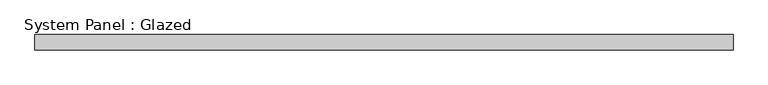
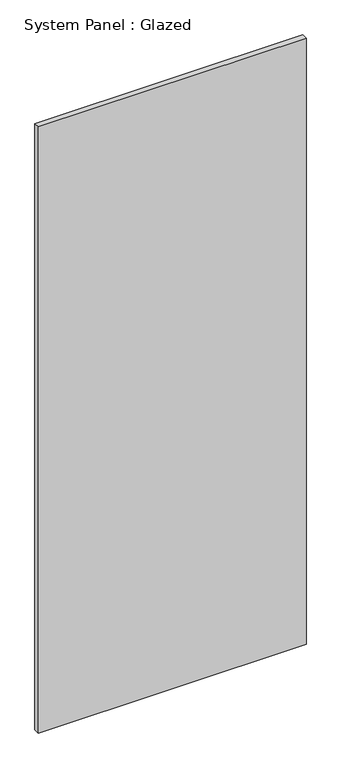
"""IFC4 building model written with IfcOpenShell, lengths in millimetres: plate geometry, System Panel : Glazed."""

from ifc_helpers import new_model, si_unit, origin, origin_with_axes, place, context, project, spatial, polyline, outline, extrude, source, transform, mapped, element, save


def system_panel_glazed_50f39f14(model_context):
    return source(origin(), model_context, "Body", "SweptSolid", [
        extrude(outline(polyline([(584.9999998, -44.45), (-584.9999998, -44.45), (-584.9999998, -19.05), (584.9999998, -19.05), (584.9999998, -44.45)])), origin_with_axes(), (0.0, 0.0, 1.0), 2800.0),
    ])


if __name__ == "__main__":
    model = new_model("IFC4")
    model_context = context("Model", 3, world=origin())
    ifc_project = project(units=[si_unit("LENGTHUNIT", "METRE", prefix="MILLI")], contexts=[model_context])
    site = spatial("IfcSite", under=ifc_project)
    building = spatial("IfcBuilding", under=site)
    placement = place(None, origin())
    system_panel_glazed_shape = system_panel_glazed_50f39f14(model_context)
    element("IfcPlate", 1, ObjectType="System Panel : Glazed", at=placement, inside=building, context=model_context, shape_type="MappedRepresentation", body=[
        mapped(system_panel_glazed_shape, transform((0.0, 0.0, 0.0), x_axis=(1.0, 0.0, 0.0), y_axis=(0.0, 1.0, 0.0), z_axis=(0.0, 0.0, 1.0))),
    ])
    save(model, "model.ifc")
